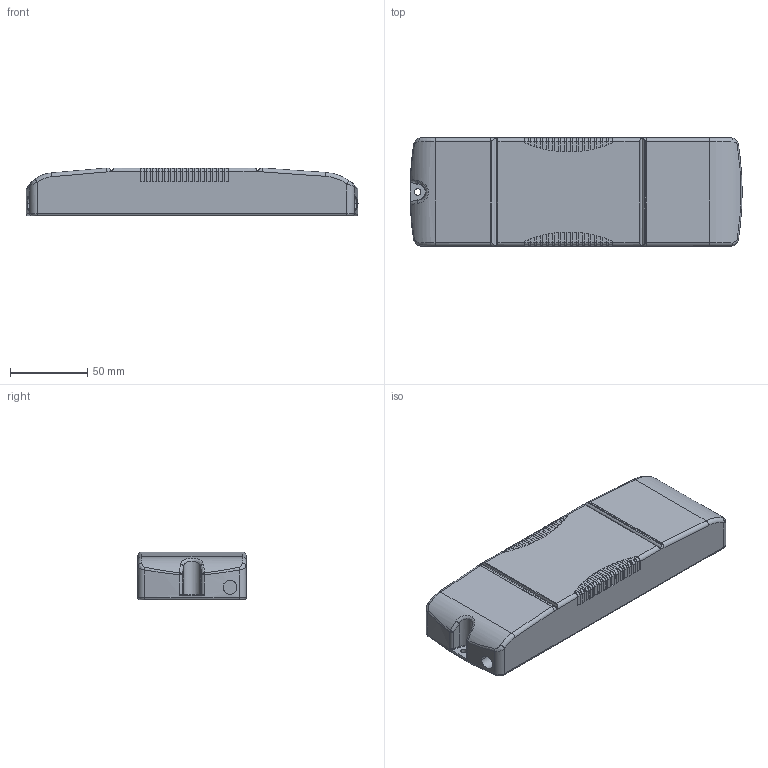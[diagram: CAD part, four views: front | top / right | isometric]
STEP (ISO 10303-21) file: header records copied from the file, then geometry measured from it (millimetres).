
FILE_DESCRIPTION((''),'2;1');
FILE_NAME('15009248Z_ST4SR','2015-03-09T',('juergen.hrach'),(''),'PRO/ENGINEER BY PARAMETRIC TECHNOLOGY CORPORATION, 2014000','PRO/ENGINEER BY PARAMETRIC TECHNOLOGY CORPORATION, 2014000','');
FILE_SCHEMA(('AUTOMOTIVE_DESIGN { 1 0 10303 214 1 1 1 1 }'));
Length unit declared in the file: millimetre
Products named in the file (1): 15009248Z_ST4SR
Bounding box: 214.95 x 70 x 31 mm (x, y, z)
Volume: 425299.7 mm3; surface area: 49341.7 mm2
Topology: 1 solids, 1 shells, 324 faces, 917 edges, 600 vertices
Faces by surface type: plane 169, cylinder 130, bspline 14, torus 11
Entity records: 14807 total; most frequent: CARTESIAN_POINT 3181, ORIENTED_EDGE 1834, DIRECTION 1720, PRESENTATION_STYLE_ASSIGNMENT 918, STYLED_ITEM 918, CURVE_STYLE 917, EDGE_CURVE 917, VECTOR 606
